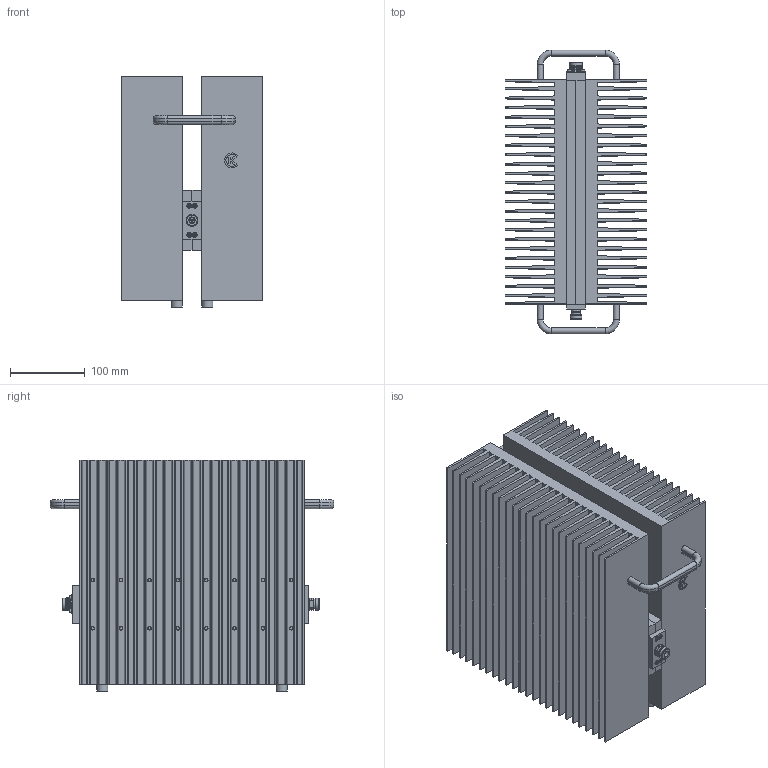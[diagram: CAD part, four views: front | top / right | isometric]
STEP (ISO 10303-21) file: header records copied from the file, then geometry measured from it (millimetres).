
FILE_DESCRIPTION(('STEP AP203'), '1');
FILE_NAME('ÏÐ1-25-1000', '', ('UNSPECIFIED'), ('UNSPECIFIED'), 'C3D Converter', 'C3D Toolkit', '');
FILE_SCHEMA(('CONFIG_CONTROL_DESIGN'));
Length unit declared in the file: millimetre
Products named in the file (17): -01
Assembly tree (58 placements, depth 3):
  (unnamed)
    (unnamed)
    (unnamed)
    (unnamed)  x2
    (unnamed)  x2
    (unnamed)  x2
    (unnamed)
      (unnamed)
      (unnamed)
      (unnamed)  x10
    (unnamed)  x4
    (unnamed)  x16
    (unnamed)
    (unnamed)  x12
    -01
    (unnamed)
    (unnamed)
      (unnamed)
Bounding box: 189 x 380 x 310 mm (x, y, z)
Volume: 6918217.6 mm3; surface area: 2554632.3 mm2
Topology: 56 solids, 58 shells, 1318 faces, 3148 edges, 2036 vertices
Faces by surface type: plane 798, cylinder 300, cone 113, torus 107
Full cylindrical faces by diameter (mm): 1.66 x1, 2 x1, 2.459 x4, 3 x21, 3.04 x1, 3.242 x8, 3.4 x4, 4.2 x2, 4.917 x26, 5 x14, 5.5 x16, 6 x17, 6.2 x16, 6.5 x50, 7 x2, 8.06 x1, 8.5 x18, 10 x17, 11 x26, 11.5 x1, 11.6 x1, 12 x1, 13.5 x1, 14 x2, 15 x4, 15.2 x1, 15.87 x1, 16 x3, 16.5 x2
Entity records: 28554 total; most frequent: CARTESIAN_POINT 5156, DIRECTION 3506, ORIENTED_EDGE 3116, EDGE_CURVE 1558, AXIS2_PLACEMENT_3D 1293, EDGE_LOOP 1178, VERTEX_POINT 1164, LINE 920
